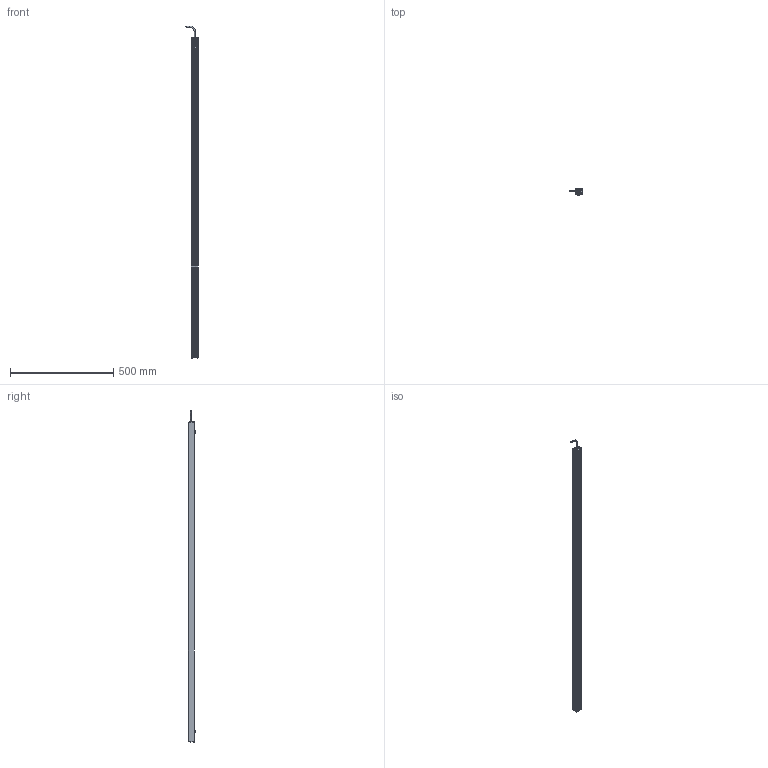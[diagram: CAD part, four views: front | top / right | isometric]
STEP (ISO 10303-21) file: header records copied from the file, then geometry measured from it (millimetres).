
FILE_DESCRIPTION (( 'STEP AP214' ), '1' );
FILE_NAME ('AL150XXXX_AL150354.stp', '2021-04-29T15:41:49', ( '' ), ( '' ), 'SwSTEP 2.0', 'SolidWorks 2018', '' );
FILE_SCHEMA (( 'AUTOMOTIVE_DESIGN' ));
Length unit declared in the file: inch
Products named in the file (12): 116-02-007; 1157 (no strap); CHM6x8_91460A312; 093145_93701A253; Part1^AL150XXXX; 116-02-006; Part2^AL150XXXX; AL150XXXX_AL150354; HN-M6_90592A016; 092408_TRUNCATED; 150-01-005-XXX_150-01-005-354; 150-03-006-XXXX_150-03-006-354
Assembly tree (18 placements, depth 2):
  Part1^AL150XXXX
  Part2^AL150XXXX
  AL150XXXX_AL150354
    150-01-005-XXX_150-01-005-354
    116-02-006
    093145_93701A253  x8
    HN-M6_90592A016  x2
    CHM6x8_91460A312  x2
    150-03-006-XXXX_150-03-006-354
    116-02-007
    1157 (no strap)
    092408_TRUNCATED
Bounding box: 60.68 x 33.84 x 1604.44 mm (x, y, z)
Volume: 479756.1 mm3; surface area: 507021.7 mm2
Topology: 26 solids, 26 shells, 1306 faces, 3436 edges, 2127 vertices
Faces by surface type: cylinder 805, cone 249, plane 153, torus 59, bspline 32, sphere 8
Entity records: 18285 total; most frequent: CARTESIAN_POINT 6069, ORIENTED_EDGE 2496, DIRECTION 2311, EDGE_CURVE 1248, AXIS2_PLACEMENT_3D 881, VERTEX_POINT 800, VECTOR 549, LINE 549
